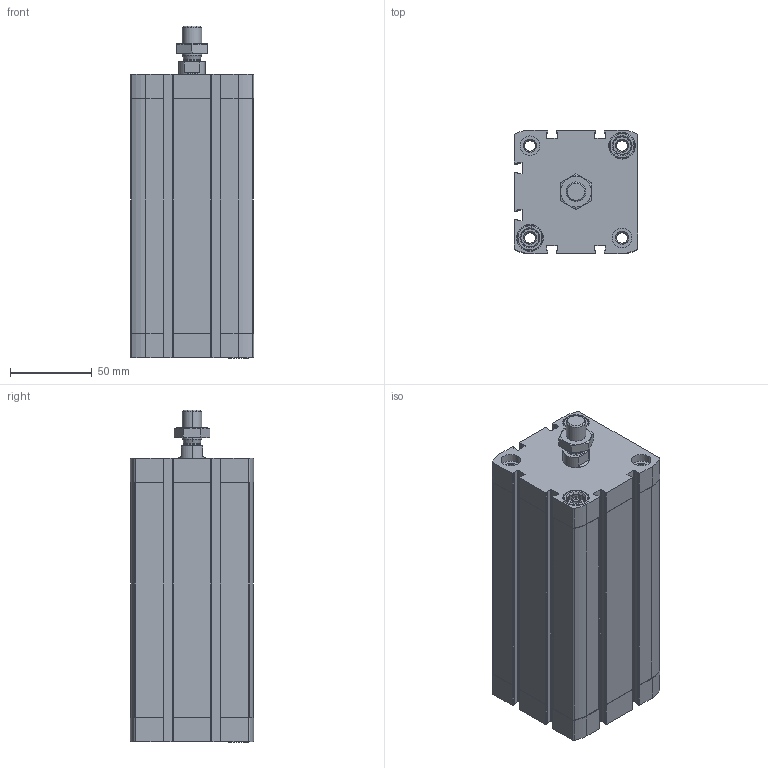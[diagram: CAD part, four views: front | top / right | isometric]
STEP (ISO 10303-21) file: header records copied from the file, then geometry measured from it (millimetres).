
FILE_DESCRIPTION (( 'STEP AP203' ), '1' );
FILE_NAME ('CCN63-125M.STEP', '2017-04-05T18:23:02', ( '' ), ( '' ), 'SwSTEP 2.0', 'SolidWorks 2016', '' );
FILE_SCHEMA (( 'CONFIG_CONTROL_DESIGN' ));
Length unit declared in the file: millimetre
Products named in the file (4): CCN---(Z); CCN_(KS); _DIN-439-B - M12x1.25(F)_1; CCN63-125M
Assembly tree (3 placements, depth 2):
  CCN63-125M
    CCN---(Z)
    CCN_(KS)
    _DIN-439-B - M12x1.25(F)_1
Bounding box: 75.5 x 75.5 x 203.5 mm (x, y, z)
Volume: 552133.8 mm3; surface area: 146533.8 mm2
Topology: 3 solids, 3 shells, 491 faces, 1316 edges, 862 vertices
Faces by surface type: plane 227, cylinder 212, cone 48, bspline 4
Entity records: 16076 total; most frequent: CARTESIAN_POINT 3133, DIRECTION 2676, ORIENTED_EDGE 2632, EDGE_CURVE 1316, AXIS2_PLACEMENT_3D 979, VERTEX_POINT 862, LINE 718, VECTOR 718
